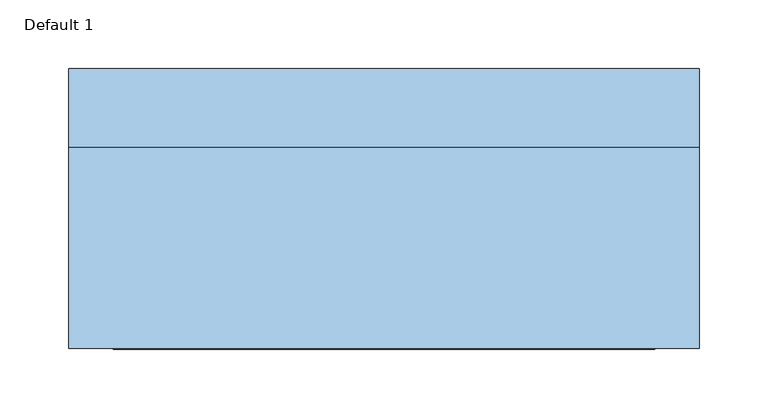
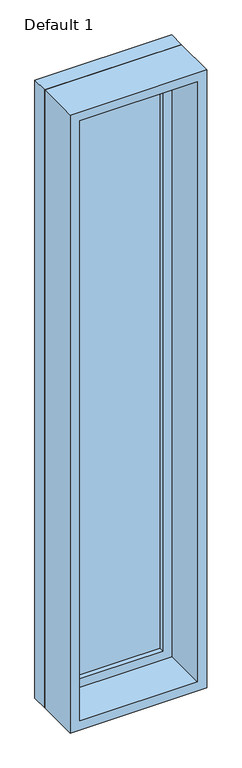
"""IFC4 building model written with IfcOpenShell, lengths in millimetres: window geometry, Planitar-Fixed : Default 1."""

from ifc_helpers import new_model, si_unit, frame, origin, place, context, project, spatial, polyline, outline, extrude, source, transform, mapped, element, save


def default_1_fb89efd3(model_context):
    return source(origin(), model_context, "Body", "SweptSolid", [
        extrude(outline(polyline([(3079.8, -209.6), (933.4, -209.6), (933.4, 209.6), (3079.8, 209.6), (3079.8, -209.6)]), holes=[polyline([(3035.8, -165.6), (3035.8, 165.6), (977.4, 165.6), (977.4, -165.6), (3035.8, -165.6)])]), frame((0.0, 57.9, 0.0), z_axis=(0.0, 1.0, 0.0), x_axis=(0.0, 0.0, 1.0)), (0.0, 0.0, 1.0), 44.0),
        extrude(outline(polyline([(3098.8, -228.6), (914.4, -228.6), (914.4, 228.6), (3098.8, 228.6), (3098.8, -228.6)]), holes=[polyline([(3079.8, -209.6), (3079.8, 209.6), (933.4, 209.6), (933.4, -209.6), (3079.8, -209.6)])]), frame((0.0, 57.9, 0.0), z_axis=(0.0, 1.0, 0.0), x_axis=(0.0, 0.0, 1.0)), (0.0, 0.0, 1.0), 56.7),
        extrude(outline(polyline([(3098.8, -228.6), (914.4, -228.6), (914.4, 228.6), (3098.8, 228.6), (3098.8, -228.6)]), holes=[polyline([(3066.8, -196.6), (3066.8, 196.6), (946.4, 196.6), (946.4, -196.6), (3066.8, -196.6)])]), frame((0.0, -88.6, 0.0), z_axis=(0.0, 1.0, 0.0), x_axis=(0.0, 0.0, 1.0)), (0.0, 0.0, 1.0), 146.5),
        extrude(outline(polyline([(-165.6, 85.9), (165.6, 85.9), (165.6, 73.9), (-165.6, 73.9), (-165.6, 85.9)])), frame((0.0, 0.0, 977.4), z_axis=(0.0, 0.0, 1.0), x_axis=(1.0, 0.0, 0.0)), (0.0, 0.0, 1.0), 2058.4),
    ])


if __name__ == "__main__":
    model = new_model("IFC4")
    model_context = context("Model", 3, world=origin())
    ifc_project = project(units=[si_unit("LENGTHUNIT", "METRE", prefix="MILLI")], contexts=[model_context])
    site = spatial("IfcSite", under=ifc_project)
    building = spatial("IfcBuilding", under=site)
    placement = place(None, origin())
    default_1_shape = default_1_fb89efd3(model_context)
    element("IfcWindow", 1, ObjectType="Planitar-Fixed : Default 1", at=placement, inside=building, context=model_context, shape_type="MappedRepresentation", body=[
        mapped(default_1_shape, transform((0.0, 0.0, 0.0), x_axis=(1.0, 0.0, 0.0), y_axis=(0.0, 1.0, 0.0), z_axis=(0.0, 0.0, 1.0))),
    ])
    save(model, "model.ifc")
